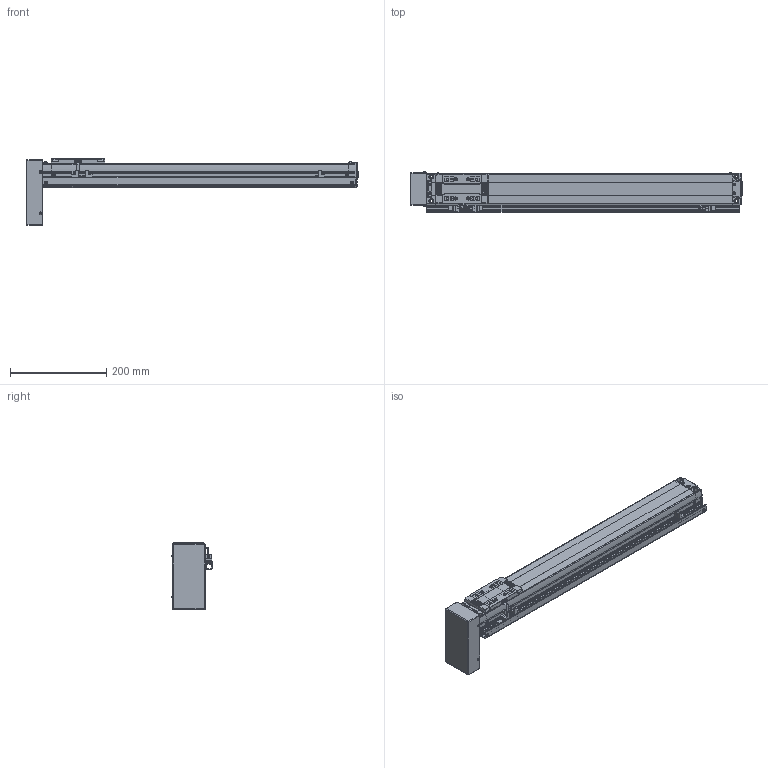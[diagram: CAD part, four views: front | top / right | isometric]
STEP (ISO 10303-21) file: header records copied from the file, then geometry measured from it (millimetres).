
FILE_DESCRIPTION(('STEP AP214'),'1');
FILE_NAME('Z:/Web/3D/SAN65/STP/SAN65ㅁㅁ-500PB+3SR.stp','2012-06-14T06:24:50',(' '),(' '),'Spatial InterOp 3D',' ',' ');
FILE_SCHEMA(('automotive_design'));
Length unit declared in the file: metre
Products named in the file (57): SAN65__-500; BODY-SAN65; REAR-SAN65; RRCV-SAN65; 스크루 : Round - M3.0 x 6.0; FRONT-SAN65; SHAFT-SAN65; RN8 x 0.75; SSFX-SAN65; SLIDE-SAN65; SLCV-SAN65; 스크루 : Countersunk - M3.0 x 6.0; ____200; PB; BTCV-SAN65; M3.0 x 6.0; 3SR; SRL-16x17-450L; - OT; EE-SX674; SBK-SX674-352; HOME; + OT; DOG; SDG-SAN65; 스크루 : Round - M3.0 x 5.0
Assembly tree (56 placements, depth 4):
  ____200
    SAN65__-500
      BODY-SAN65
      REAR-SAN65
        REAR-SAN65
        RRCV-SAN65
        스크루 : Round - M3.0 x 6.0
        스크루 : Round - M3.0 x 6.0
        스크루 : Round - M3.0 x 6.0
        스크루 : Round - M3.0 x 6.0
        스크루 : Round - M3.0 x 6.0
        스크루 : Round - M3.0 x 6.0
      FRONT-SAN65
        FRONT-SAN65
        SHAFT-SAN65
        RN8 x 0.75
        SSFX-SAN65
        스크루 : Round - M3.0 x 6.0
        스크루 : Round - M3.0 x 6.0
        스크루 : Round - M3.0 x 6.0
        스크루 : Round - M3.0 x 6.0
      SLIDE-SAN65
        SLIDE-SAN65
        SLCV-SAN65
        스크루 : Countersunk - M3.0 x 6.0
        스크루 : Countersunk - M3.0 x 6.0
        스크루 : Countersunk - M3.0 x 6.0
        스크루 : Countersunk - M3.0 x 6.0
    PB
      BTCV-SAN65
      M3.0 x 6.0
      M3.0 x 6.0
      M3.0 x 6.0
      M3.0 x 6.0
    3SR
      SRL-16x17-450L
      스크루 : Round - M3.0 x 6.0
      스크루 : Round - M3.0 x 6.0
      - OT
        EE-SX674
        SBK-SX674-352
        스크루 : Round - M3.0 x 6.0
        스크루 : Round - M3.0 x 6.0
      HOME
        EE-SX674
        SBK-SX674-352
        스크루 : Round - M3.0 x 6.0
        스크루 : Round - M3.0 x 6.0
      + OT
        EE-SX674
        SBK-SX674-352
        스크루 : Round - M3.0 x 6.0
        스크루 : Round - M3.0 x 6.0
      DOG
        SDG-SAN65
        스크루 : Round - M3.0 x 5.0
        스크루 : Round - M3.0 x 5.0
Bounding box: 690.15 x 84.06 x 138.5 mm (x, y, z)
Volume: 2462981.3 mm3; surface area: 352738.1 mm2
Topology: 46 solids, 46 shells, 1969 faces, 5025 edges, 3274 vertices
Faces by surface type: plane 1293, cylinder 491, cone 101, sphere 36, bspline 30, torus 15, extrusion 3
Full cylindrical faces by diameter (mm): 0.571 x2, 0.706 x1, 1.727 x2, 2.132 x1, 2.2 x4, 2.5 x15, 2.528 x4, 3 x6, 3.121 x2, 3.3 x4, 3.4 x8, 3.5 x14, 4.2 x36, 4.849 x4, 5 x2, 5.5 x4, 5.987 x2, 6 x6, 6.35 x1, 6.5 x2, 7 x1, 8 x4, 9.5 x4, 13 x1, 15 x1, 19 x1, 26 x1, 38.1 x1
Entity records: 79185 total; most frequent: CARTESIAN_POINT 15015, DIRECTION 9849, ORIENTED_EDGE 9328, EDGE_CURVE 4664, AXIS2_PLACEMENT_3D 3284, VECTOR 3281, LINE 3278, VERTEX_POINT 3210
